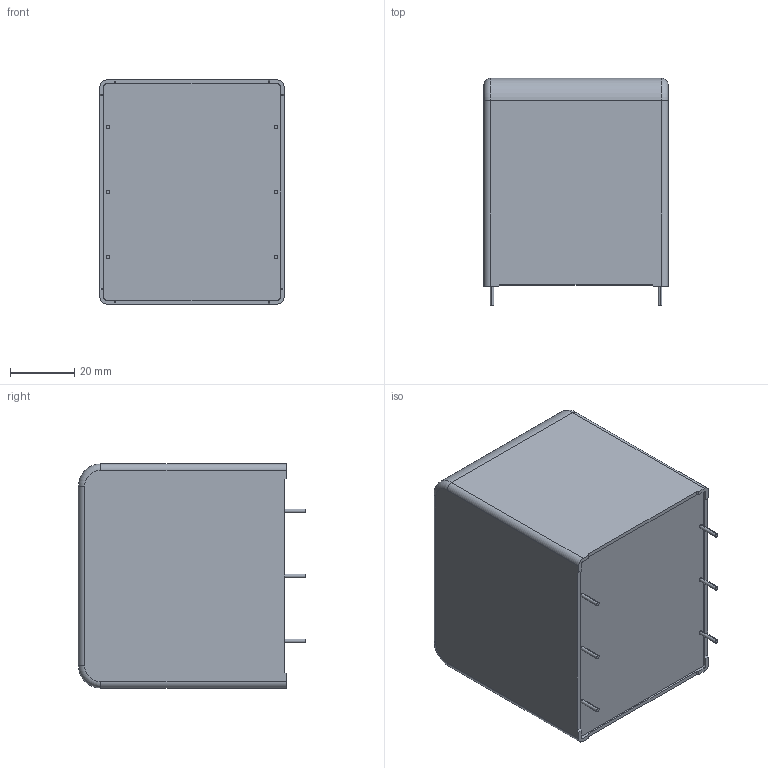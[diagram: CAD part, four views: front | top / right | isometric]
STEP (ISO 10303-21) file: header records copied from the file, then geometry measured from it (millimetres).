
FILE_DESCRIPTION (( 'STEP AP203' ), '1' );
FILE_NAME ('DC_Link_70x65x57.5_6pins20.3.step', '2017-04-03T16:00:26', ( 'work' ), ( 'Hewlett-Packard Company' ), 'SwSTEP 2.0', 'SolidWorks 2017', '' );
FILE_SCHEMA (( 'CONFIG_CONTROL_DESIGN' ));
Length unit declared in the file: millimetre
Products named in the file (1): DC_Link_70x65x57.5_6pins20.3
Bounding box: 57.5 x 71 x 70 mm (x, y, z)
Volume: 256278.1 mm3; surface area: 24086.7 mm2
Topology: 1 solids, 1 shells, 128 faces, 331 edges, 218 vertices
Faces by surface type: plane 84, cylinder 24, bspline 16, torus 4
Entity records: 4652 total; most frequent: CARTESIAN_POINT 1502, ORIENTED_EDGE 662, DIRECTION 577, EDGE_CURVE 331, VECTOR 247, LINE 247, VERTEX_POINT 218, AXIS2_PLACEMENT_3D 165
